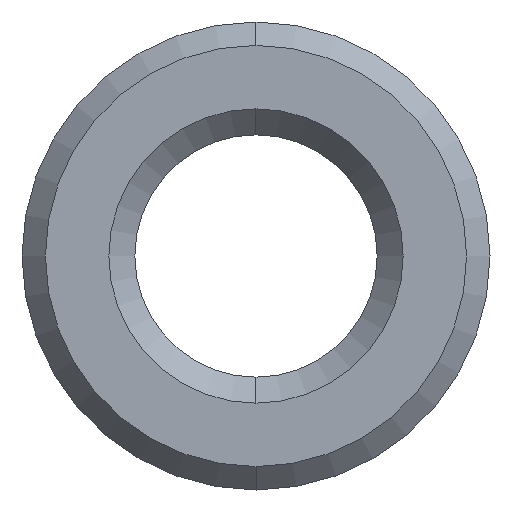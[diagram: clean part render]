
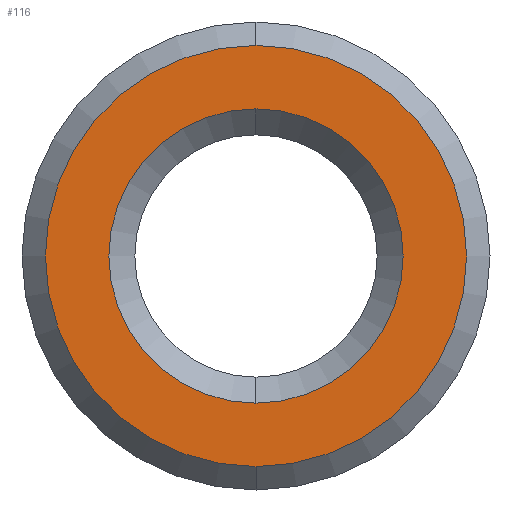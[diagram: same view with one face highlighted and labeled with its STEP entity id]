
A CAD part, left-side view. The second image highlights one B-rep face of the part: STEP entity #116.
In plain terms, the highlighted planar face has unit normal (-1, 0, 0).
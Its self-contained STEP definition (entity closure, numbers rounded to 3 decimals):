
#1=CARTESIAN_POINT('POINT1',(-4.77,0.,
   2.147));
#2=VERTEX_POINT('VERTEX1',#1);
#20=CARTESIAN_POINT('POINT4',(-4.77,0.,
   -2.147));
#21=VERTEX_POINT('VERTEX4',#20);
#28=CARTESIAN_POINT('POS4',(-4.77,0.,0.))
   ;
#29=DIRECTION('DIR5',(1.,0.,0.));
#30=DIRECTION('DIR6',(0.,0.,
   1.));
#31=AXIS2_PLACEMENT_3D('AXIS2',#28,#29,#30);
#32=CIRCLE('ELLIPSE2',#31,2.147);
#33=EDGE_CURVE('EDGE4',#21,#2,#32,.T.);
#44=EDGE_CURVE('EDGE5',#2,#21,#32,.T.);
#92=CARTESIAN_POINT('POINT7',(-4.77,0.,1.5)
   );
#93=VERTEX_POINT('VERTEX7',#92);
#94=CARTESIAN_POINT('POINT8',(-4.77,0.,-1.5
   ));
#95=VERTEX_POINT('VERTEX8',#94);
#96=CARTESIAN_POINT('POS10',(-4.77,0.,
   0.));
#97=DIRECTION('DIR15',(1.,0.,0.));
#98=DIRECTION('DIR16',(0.,0.,1.));
#99=AXIS2_PLACEMENT_3D('AXIS6',#96,#97,#98);
#100=CIRCLE('ELLIPSE4',#99,1.5);
#101=EDGE_CURVE('EDGE11',#93,#95,#100,.T.);
#102=ORIENTED_EDGE('COEDGE17',*,*,#101,.T.);
#103=EDGE_CURVE('EDGE12',#95,#93,#100,.T.);
#104=ORIENTED_EDGE('COEDGE18',*,*,#103,.T.);
#105=EDGE_LOOP('NONE',(#102,#104));
#106=FACE_BOUND('LOOP1',#105,.T.);
#107=ORIENTED_EDGE('COEDGE19',*,*,#44,.F.);
#108=ORIENTED_EDGE('COEDGE20',*,*,#33,.F.);
#109=EDGE_LOOP('NONE',(#107,#108));
#110=FACE_BOUND('LOOP1',#109,.T.);
#111=CARTESIAN_POINT('POS11',(-4.77,0.,
   1.073));
#112=DIRECTION('DIR17',(-1.,0.,0.));
#113=DIRECTION('DIR18',(0.,1.,0.));
#114=AXIS2_PLACEMENT_3D('AXIS7',#111,#112,#113);
#115=PLANE('PLANE1',#114);
#116=ADVANCED_FACE('FACE5',(#106,#110),#115,.T.);
